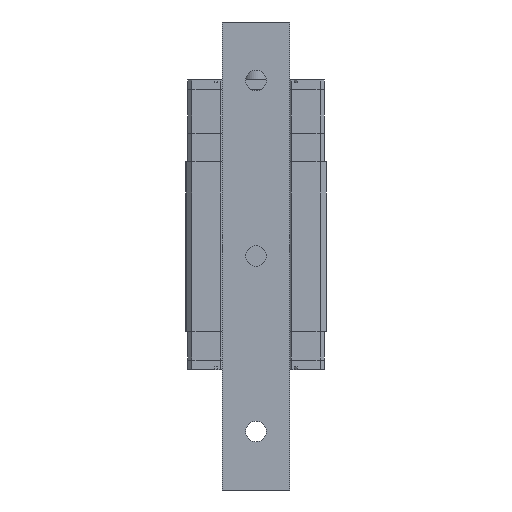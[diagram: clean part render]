
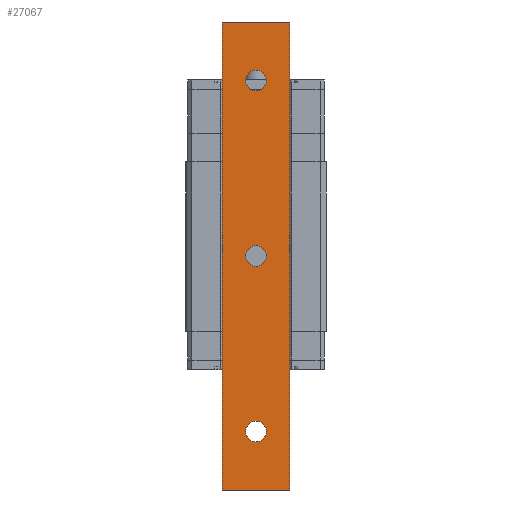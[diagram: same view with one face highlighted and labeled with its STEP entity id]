
A CAD part, front view. The second image highlights one B-rep face of the part: STEP entity #27067.
In plain terms, the highlighted planar face has unit normal (0, -1, 0).
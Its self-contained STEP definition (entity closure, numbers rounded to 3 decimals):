
#79 = AXIS2_PLACEMENT_3D ( 'NONE', #27613, #27492, #23061 ) ;
#119 = FACE_BOUND ( 'NONE', #25134, .T. ) ;
#640 = CARTESIAN_POINT ( 'NONE',  ( 0., -5.6, 0. ) ) ;
#1354 = LINE ( 'NONE', #21013, #24751 ) ;
#1736 = CARTESIAN_POINT ( 'NONE',  ( -11.5, -5.6, 80. ) ) ;
#1866 = ORIENTED_EDGE ( 'NONE', *, *, #28101, .F. ) ;
#2355 = FACE_BOUND ( 'NONE', #21009, .T. ) ;
#3026 = EDGE_CURVE ( 'NONE', #29411, #8400, #11804, .T. ) ;
#3418 = ORIENTED_EDGE ( 'NONE', *, *, #3026, .F. ) ;
#3474 = FACE_BOUND ( 'NONE', #16618, .T. ) ;
#3728 = EDGE_CURVE ( 'NONE', #27819, #23026, #17627, .T. ) ;
#3734 = VERTEX_POINT ( 'NONE', #12425 ) ;
#4327 = VERTEX_POINT ( 'NONE', #27803 ) ;
#4367 = CARTESIAN_POINT ( 'NONE',  ( -11.5, -5.6, -80. ) ) ;
#6113 = LINE ( 'NONE', #16189, #19137 ) ;
#6240 = CARTESIAN_POINT ( 'NONE',  ( 11.5, -5.6, 80. ) ) ;
#6258 = CIRCLE ( 'NONE', #29038, 3.5 ) ;
#6353 = DIRECTION ( 'NONE',  ( 0., 0., -1. ) ) ;
#6456 = CARTESIAN_POINT ( 'NONE',  ( 0., -5.6, 60. ) ) ;
#8130 = AXIS2_PLACEMENT_3D ( 'NONE', #6456, #8872, #23338 ) ;
#8400 = VERTEX_POINT ( 'NONE', #29733 ) ;
#8699 = FACE_OUTER_BOUND ( 'NONE', #20725, .T. ) ;
#8872 = DIRECTION ( 'NONE',  ( 0., -1., 0. ) ) ;
#9243 = AXIS2_PLACEMENT_3D ( 'NONE', #23999, #26064, #19147 ) ;
#9670 = CARTESIAN_POINT ( 'NONE',  ( 0., -5.6, 3.5 ) ) ;
#9713 = EDGE_CURVE ( 'NONE', #23485, #4327, #16708, .T. ) ;
#10140 = DIRECTION ( 'NONE',  ( 0., -1., 0. ) ) ;
#10316 = AXIS2_PLACEMENT_3D ( 'NONE', #1736, #25561, #11309 ) ;
#10525 = VERTEX_POINT ( 'NONE', #17057 ) ;
#10751 = ORIENTED_EDGE ( 'NONE', *, *, #13893, .F. ) ;
#10861 = VECTOR ( 'NONE', #15826, 1000. ) ;
#11309 = DIRECTION ( 'NONE',  ( 0., 0., 1. ) ) ;
#11324 = EDGE_CURVE ( 'NONE', #3734, #11496, #1354, .T. ) ;
#11496 = VERTEX_POINT ( 'NONE', #4367 ) ;
#11720 = CARTESIAN_POINT ( 'NONE',  ( 11.5, -5.6, 80. ) ) ;
#11804 = CIRCLE ( 'NONE', #8130, 3.5 ) ;
#12337 = DIRECTION ( 'NONE',  ( 0., 0., -1. ) ) ;
#12425 = CARTESIAN_POINT ( 'NONE',  ( -11.5, -5.6, 80. ) ) ;
#12527 = DIRECTION ( 'NONE',  ( 0., 0., -1. ) ) ;
#12923 = ORIENTED_EDGE ( 'NONE', *, *, #3728, .F. ) ;
#13595 = ORIENTED_EDGE ( 'NONE', *, *, #19603, .F. ) ;
#13893 = EDGE_CURVE ( 'NONE', #4327, #23485, #30487, .T. ) ;
#14816 = EDGE_CURVE ( 'NONE', #8400, #29411, #6258, .T. ) ;
#15042 = CARTESIAN_POINT ( 'NONE',  ( 0., -5.6, 63.5 ) ) ;
#15826 = DIRECTION ( 'NONE',  ( 1., 0., 0. ) ) ;
#15979 = PLANE ( 'NONE',  #10316 ) ;
#16165 = CARTESIAN_POINT ( 'NONE',  ( 0., -5.6, -60. ) ) ;
#16189 = CARTESIAN_POINT ( 'NONE',  ( -11.5, -5.6, 80. ) ) ;
#16409 = DIRECTION ( 'NONE',  ( 0., 0., -1. ) ) ;
#16470 = VERTEX_POINT ( 'NONE', #11720 ) ;
#16618 = EDGE_LOOP ( 'NONE', ( #26750, #3418 ) ) ;
#16708 = CIRCLE ( 'NONE', #9243, 3.5 ) ;
#16957 = CIRCLE ( 'NONE', #79, 3.5 ) ;
#16989 = CARTESIAN_POINT ( 'NONE',  ( 0., -5.6, -3.5 ) ) ;
#17057 = CARTESIAN_POINT ( 'NONE',  ( 11.5, -5.6, -80. ) ) ;
#17627 = CIRCLE ( 'NONE', #19061, 3.5 ) ;
#18155 = DIRECTION ( 'NONE',  ( 1., 0., 0. ) ) ;
#18531 = DIRECTION ( 'NONE',  ( 0., 0., -1. ) ) ;
#19061 = AXIS2_PLACEMENT_3D ( 'NONE', #640, #26461, #12337 ) ;
#19137 = VECTOR ( 'NONE', #18155, 1000. ) ;
#19147 = DIRECTION ( 'NONE',  ( 0., 0., -1. ) ) ;
#19439 = CARTESIAN_POINT ( 'NONE',  ( 0., -5.6, 60. ) ) ;
#19603 = EDGE_CURVE ( 'NONE', #3734, #16470, #6113, .T. ) ;
#20233 = CARTESIAN_POINT ( 'NONE',  ( -11.5, -5.6, -80. ) ) ;
#20372 = ORIENTED_EDGE ( 'NONE', *, *, #20811, .T. ) ;
#20725 = EDGE_LOOP ( 'NONE', ( #21479, #20372, #1866, #13595 ) ) ;
#20811 = EDGE_CURVE ( 'NONE', #11496, #10525, #26371, .T. ) ;
#20938 = CARTESIAN_POINT ( 'NONE',  ( 0., -5.6, -63.5 ) ) ;
#21009 = EDGE_LOOP ( 'NONE', ( #12923, #28332 ) ) ;
#21013 = CARTESIAN_POINT ( 'NONE',  ( -11.5, -5.6, 80. ) ) ;
#21479 = ORIENTED_EDGE ( 'NONE', *, *, #11324, .T. ) ;
#23026 = VERTEX_POINT ( 'NONE', #9670 ) ;
#23061 = DIRECTION ( 'NONE',  ( 0., 0., -1. ) ) ;
#23338 = DIRECTION ( 'NONE',  ( 0., 0., -1. ) ) ;
#23485 = VERTEX_POINT ( 'NONE', #20938 ) ;
#23999 = CARTESIAN_POINT ( 'NONE',  ( 0., -5.6, -60. ) ) ;
#24751 = VECTOR ( 'NONE', #16409, 1000. ) ;
#25134 = EDGE_LOOP ( 'NONE', ( #29531, #10751 ) ) ;
#25561 = DIRECTION ( 'NONE',  ( 0., 1., 0. ) ) ;
#26046 = EDGE_CURVE ( 'NONE', #23026, #27819, #16957, .T. ) ;
#26064 = DIRECTION ( 'NONE',  ( 0., -1., 0. ) ) ;
#26371 = LINE ( 'NONE', #20233, #10861 ) ;
#26461 = DIRECTION ( 'NONE',  ( 0., -1., 0. ) ) ;
#26750 = ORIENTED_EDGE ( 'NONE', *, *, #14816, .F. ) ;
#27045 = VECTOR ( 'NONE', #6353, 1000. ) ;
#27067 = ADVANCED_FACE ( 'NONE', ( #119, #2355, #3474, #8699 ), #15979, .F. ) ;
#27492 = DIRECTION ( 'NONE',  ( 0., -1., 0. ) ) ;
#27613 = CARTESIAN_POINT ( 'NONE',  ( 0., -5.6, 0. ) ) ;
#27802 = LINE ( 'NONE', #6240, #27045 ) ;
#27803 = CARTESIAN_POINT ( 'NONE',  ( 0., -5.6, -56.5 ) ) ;
#27819 = VERTEX_POINT ( 'NONE', #16989 ) ;
#28101 = EDGE_CURVE ( 'NONE', #16470, #10525, #27802, .T. ) ;
#28332 = ORIENTED_EDGE ( 'NONE', *, *, #26046, .F. ) ;
#29038 = AXIS2_PLACEMENT_3D ( 'NONE', #19439, #10140, #12527 ) ;
#29411 = VERTEX_POINT ( 'NONE', #15042 ) ;
#29531 = ORIENTED_EDGE ( 'NONE', *, *, #9713, .F. ) ;
#29733 = CARTESIAN_POINT ( 'NONE',  ( 0., -5.6, 56.5 ) ) ;
#29820 = AXIS2_PLACEMENT_3D ( 'NONE', #16165, #30427, #18531 ) ;
#30427 = DIRECTION ( 'NONE',  ( 0., -1., 0. ) ) ;
#30487 = CIRCLE ( 'NONE', #29820, 3.5 ) ;
